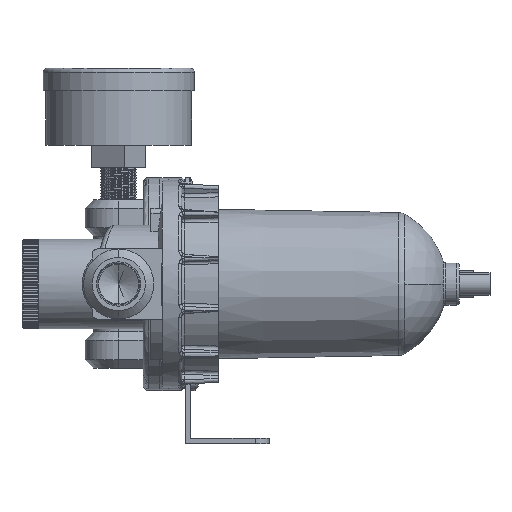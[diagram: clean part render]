
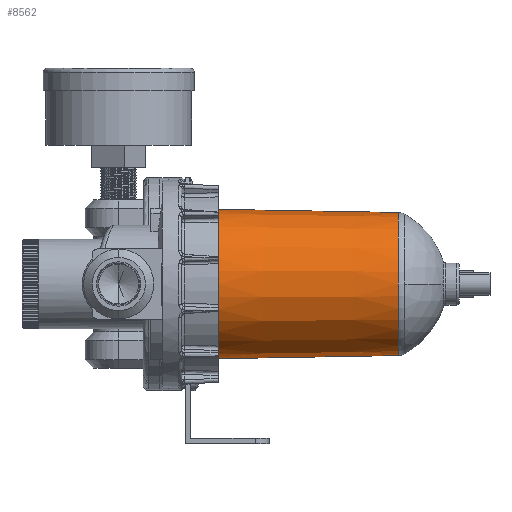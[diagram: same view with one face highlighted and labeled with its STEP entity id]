
A CAD part, left-side view. The second image highlights one B-rep face of the part: STEP entity #8562.
In plain terms, the highlighted conical face has half-angle 1 degrees and reference radius 25.5 mm.
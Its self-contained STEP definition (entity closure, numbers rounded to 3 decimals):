
#1024 = EDGE_CURVE ( 'NONE', #10679, #28323, #29762, .T. ) ;
#1067 = LINE ( 'NONE', #17886, #28954 ) ;
#2014 = AXIS2_PLACEMENT_3D ( 'NONE', #17002, #42539, #22863 ) ;
#3501 = CIRCLE ( 'NONE', #2014, 25.52 ) ;
#4976 = DIRECTION ( 'NONE',  ( 0., 1., 0. ) ) ;
#6129 = LINE ( 'NONE', #27992, #15615 ) ;
#8562 = ADVANCED_FACE ( 'NONE', ( #34951 ), #28959, .T. ) ;
#10611 = ORIENTED_EDGE ( 'NONE', *, *, #1024, .F. ) ;
#10679 = VERTEX_POINT ( 'NONE', #19264 ) ;
#11983 = VERTEX_POINT ( 'NONE', #24822 ) ;
#12267 = CARTESIAN_POINT ( 'NONE',  ( 0., 0., 0. ) ) ;
#12343 = ORIENTED_EDGE ( 'NONE', *, *, #38888, .T. ) ;
#13085 = DIRECTION ( 'NONE',  ( 0., 1., 0. ) ) ;
#15009 = EDGE_CURVE ( 'NONE', #11983, #37713, #3501, .T. ) ;
#15615 = VECTOR ( 'NONE', #17792, 1000. ) ;
#17002 = CARTESIAN_POINT ( 'NONE',  ( 0., 1.155, 0. ) ) ;
#17506 = CARTESIAN_POINT ( 'NONE',  ( 0., 1.155, -25.52 ) ) ;
#17792 = DIRECTION ( 'NONE',  ( 0., 1., 0.017 ) ) ;
#17886 = CARTESIAN_POINT ( 'NONE',  ( 0., 0., -25.5 ) ) ;
#18670 = AXIS2_PLACEMENT_3D ( 'NONE', #12267, #4976, #28316 ) ;
#19264 = CARTESIAN_POINT ( 'NONE',  ( 0., 65.5, 26.643 ) ) ;
#21574 = CARTESIAN_POINT ( 'NONE',  ( 0., 65.5, -26.643 ) ) ;
#22863 = DIRECTION ( 'NONE',  ( 0., 0., -1. ) ) ;
#24822 = CARTESIAN_POINT ( 'NONE',  ( 0., 1.155, 25.52 ) ) ;
#26033 = EDGE_CURVE ( 'NONE', #11983, #10679, #6129, .T. ) ;
#27992 = CARTESIAN_POINT ( 'NONE',  ( 0., 0., 25.5 ) ) ;
#28316 = DIRECTION ( 'NONE',  ( 0., 0., 1. ) ) ;
#28323 = VERTEX_POINT ( 'NONE', #21574 ) ;
#28954 = VECTOR ( 'NONE', #43384, 1000. ) ;
#28959 = CONICAL_SURFACE ( 'NONE', #18670, 25.5, 0.017 ) ;
#29762 = CIRCLE ( 'NONE', #42564, 26.643 ) ;
#31372 = CARTESIAN_POINT ( 'NONE',  ( 0., 65.5, 0. ) ) ;
#32248 = ORIENTED_EDGE ( 'NONE', *, *, #26033, .F. ) ;
#34951 = FACE_OUTER_BOUND ( 'NONE', #38805, .T. ) ;
#37545 = ORIENTED_EDGE ( 'NONE', *, *, #15009, .T. ) ;
#37713 = VERTEX_POINT ( 'NONE', #17506 ) ;
#38625 = DIRECTION ( 'NONE',  ( 0., 0., 1. ) ) ;
#38805 = EDGE_LOOP ( 'NONE', ( #37545, #12343, #10611, #32248 ) ) ;
#38888 = EDGE_CURVE ( 'NONE', #37713, #28323, #1067, .T. ) ;
#42539 = DIRECTION ( 'NONE',  ( 0., 1., 0. ) ) ;
#42564 = AXIS2_PLACEMENT_3D ( 'NONE', #31372, #13085, #38625 ) ;
#43384 = DIRECTION ( 'NONE',  ( 0., 1., -0.017 ) ) ;
